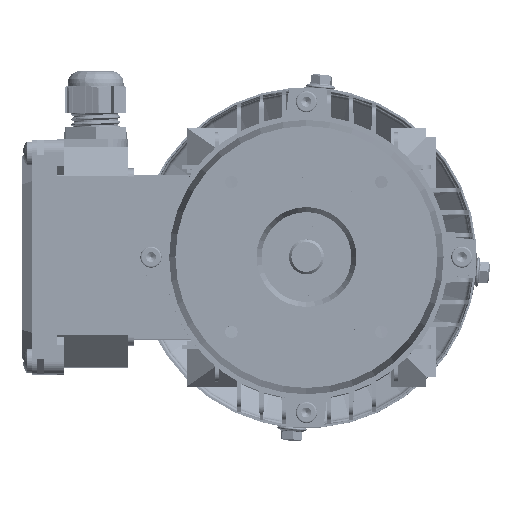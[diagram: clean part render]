
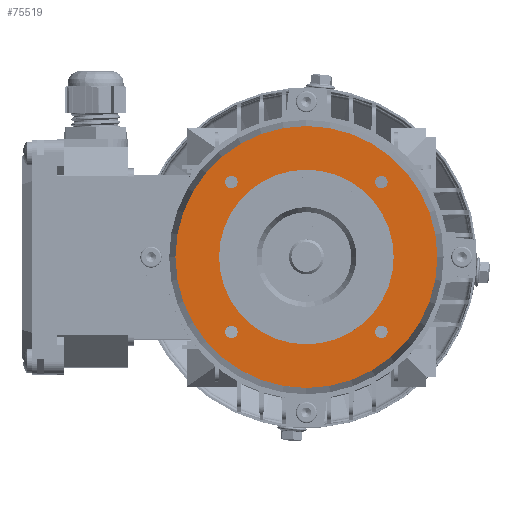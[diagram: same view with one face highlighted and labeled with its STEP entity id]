
A CAD part, top view. The second image highlights one B-rep face of the part: STEP entity #75519.
In plain terms, the highlighted planar face has unit normal (0, 0, 1).
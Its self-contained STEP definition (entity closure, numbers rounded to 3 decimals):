
#498 = DIRECTION ( 'NONE',  ( 1., 0., 0. ) ) ;
#1558 = AXIS2_PLACEMENT_3D ( 'NONE', #82681, #25088, #92300 ) ;
#1923 = FACE_BOUND ( 'NONE', #117175, .T. ) ;
#1939 = DIRECTION ( 'NONE',  ( 0., 0., 1. ) ) ;
#2234 = DIRECTION ( 'NONE',  ( 1., 0., 0. ) ) ;
#3148 = AXIS2_PLACEMENT_3D ( 'NONE', #73374, #112053, #54427 ) ;
#5136 = CIRCLE ( 'NONE', #54897, 2.5 ) ;
#5251 = DIRECTION ( 'NONE',  ( 1., 0., 0. ) ) ;
#5850 = CIRCLE ( 'NONE', #108155, 2.5 ) ;
#5865 = ORIENTED_EDGE ( 'NONE', *, *, #59221, .F. ) ;
#5932 = VERTEX_POINT ( 'NONE', #43741 ) ;
#6736 = CARTESIAN_POINT ( 'NONE',  ( 0., 0., -2.5 ) ) ;
#8630 = VERTEX_POINT ( 'NONE', #84689 ) ;
#11121 = VERTEX_POINT ( 'NONE', #43643 ) ;
#13105 = ORIENTED_EDGE ( 'NONE', *, *, #117894, .T. ) ;
#13570 = DIRECTION ( 'NONE',  ( 0., 0., 1. ) ) ;
#13617 = CARTESIAN_POINT ( 'NONE',  ( 30.052, -30.052, -2.5 ) ) ;
#15265 = EDGE_LOOP ( 'NONE', ( #107726, #79883 ) ) ;
#16246 = VERTEX_POINT ( 'NONE', #48657 ) ;
#16426 = DIRECTION ( 'NONE',  ( 1., 0., 0. ) ) ;
#17017 = AXIS2_PLACEMENT_3D ( 'NONE', #115782, #58180, #498 ) ;
#18688 = EDGE_LOOP ( 'NONE', ( #48467, #47633 ) ) ;
#19546 = CIRCLE ( 'NONE', #51246, 35. ) ;
#20091 = VERTEX_POINT ( 'NONE', #57908 ) ;
#20620 = VERTEX_POINT ( 'NONE', #94325 ) ;
#22579 = DIRECTION ( 'NONE',  ( 0., 0., 1. ) ) ;
#23346 = DIRECTION ( 'NONE',  ( 1., 0., 0. ) ) ;
#23847 = ORIENTED_EDGE ( 'NONE', *, *, #32695, .F. ) ;
#24585 = VERTEX_POINT ( 'NONE', #40350 ) ;
#25088 = DIRECTION ( 'NONE',  ( 0., 0., 1. ) ) ;
#25268 = EDGE_CURVE ( 'NONE', #28661, #8630, #116631, .T. ) ;
#25648 = ORIENTED_EDGE ( 'NONE', *, *, #87387, .F. ) ;
#27582 = FACE_OUTER_BOUND ( 'NONE', #94248, .T. ) ;
#28661 = VERTEX_POINT ( 'NONE', #67306 ) ;
#28721 = EDGE_LOOP ( 'NONE', ( #23847, #5865 ) ) ;
#32695 = EDGE_CURVE ( 'NONE', #120403, #5932, #70228, .T. ) ;
#39568 = FACE_BOUND ( 'NONE', #28721, .T. ) ;
#40350 = CARTESIAN_POINT ( 'NONE',  ( -35., 0., -2.5 ) ) ;
#42169 = CARTESIAN_POINT ( 'NONE',  ( -52.5, 0., -2.5 ) ) ;
#43643 = CARTESIAN_POINT ( 'NONE',  ( 27.552, 30.052, -2.5 ) ) ;
#43741 = CARTESIAN_POINT ( 'NONE',  ( -32.552, 30.052, -2.5 ) ) ;
#44747 = PLANE ( 'NONE',  #3148 ) ;
#47633 = ORIENTED_EDGE ( 'NONE', *, *, #52554, .F. ) ;
#48467 = ORIENTED_EDGE ( 'NONE', *, *, #112991, .F. ) ;
#48657 = CARTESIAN_POINT ( 'NONE',  ( -32.552, -30.052, -2.5 ) ) ;
#50487 = CIRCLE ( 'NONE', #17017, 35. ) ;
#51121 = DIRECTION ( 'NONE',  ( 0., 0., 1. ) ) ;
#51246 = AXIS2_PLACEMENT_3D ( 'NONE', #120479, #62902, #5251 ) ;
#52554 = EDGE_CURVE ( 'NONE', #11121, #20620, #108874, .T. ) ;
#53149 = FACE_BOUND ( 'NONE', #18688, .T. ) ;
#54415 = AXIS2_PLACEMENT_3D ( 'NONE', #115156, #57574, #124831 ) ;
#54427 = DIRECTION ( 'NONE',  ( 1., 0., 0. ) ) ;
#54568 = ORIENTED_EDGE ( 'NONE', *, *, #83014, .F. ) ;
#54897 = AXIS2_PLACEMENT_3D ( 'NONE', #59620, #1939, #69267 ) ;
#55791 = DIRECTION ( 'NONE',  ( 0., 0., 1. ) ) ;
#57099 = AXIS2_PLACEMENT_3D ( 'NONE', #71213, #13570, #80877 ) ;
#57574 = DIRECTION ( 'NONE',  ( 0., 0., 1. ) ) ;
#57908 = CARTESIAN_POINT ( 'NONE',  ( 52.5, 0., -2.5 ) ) ;
#58180 = DIRECTION ( 'NONE',  ( 0., 0., 1. ) ) ;
#58348 = AXIS2_PLACEMENT_3D ( 'NONE', #113382, #55791, #123051 ) ;
#59221 = EDGE_CURVE ( 'NONE', #5932, #120403, #5136, .T. ) ;
#59620 = CARTESIAN_POINT ( 'NONE',  ( -30.052, 30.052, -2.5 ) ) ;
#59913 = DIRECTION ( 'NONE',  ( 0., 0., 1. ) ) ;
#60852 = EDGE_CURVE ( 'NONE', #117293, #20091, #122199, .T. ) ;
#61940 = CIRCLE ( 'NONE', #89114, 2.5 ) ;
#62902 = DIRECTION ( 'NONE',  ( 0., 0., 1. ) ) ;
#67306 = CARTESIAN_POINT ( 'NONE',  ( 27.552, -30.052, -2.5 ) ) ;
#69267 = DIRECTION ( 'NONE',  ( 1., 0., 0. ) ) ;
#70228 = CIRCLE ( 'NONE', #80294, 2.5 ) ;
#71213 = CARTESIAN_POINT ( 'NONE',  ( 30.052, 30.052, -2.5 ) ) ;
#73374 = CARTESIAN_POINT ( 'NONE',  ( 35., 0., -2.5 ) ) ;
#74069 = DIRECTION ( 'NONE',  ( 0., 0., 1. ) ) ;
#75519 = ADVANCED_FACE ( 'NONE', ( #78726, #104297, #39568, #53149, #27582, #1923 ), #44747, .T. ) ;
#75580 = VERTEX_POINT ( 'NONE', #84290 ) ;
#75595 = CIRCLE ( 'NONE', #57099, 2.5 ) ;
#77071 = CARTESIAN_POINT ( 'NONE',  ( -27.552, 30.052, -2.5 ) ) ;
#77402 = ORIENTED_EDGE ( 'NONE', *, *, #60852, .T. ) ;
#78726 = FACE_BOUND ( 'NONE', #122183, .T. ) ;
#78857 = EDGE_CURVE ( 'NONE', #75580, #16246, #5850, .T. ) ;
#79883 = ORIENTED_EDGE ( 'NONE', *, *, #104419, .F. ) ;
#80171 = CARTESIAN_POINT ( 'NONE',  ( -30.052, -30.052, -2.5 ) ) ;
#80294 = AXIS2_PLACEMENT_3D ( 'NONE', #108728, #51121, #118415 ) ;
#80601 = CIRCLE ( 'NONE', #98527, 52.5 ) ;
#80877 = DIRECTION ( 'NONE',  ( 1., 0., 0. ) ) ;
#80923 = DIRECTION ( 'NONE',  ( 0., 0., 1. ) ) ;
#82681 = CARTESIAN_POINT ( 'NONE',  ( -30.052, -30.052, -2.5 ) ) ;
#83014 = EDGE_CURVE ( 'NONE', #24585, #120499, #19546, .T. ) ;
#84290 = CARTESIAN_POINT ( 'NONE',  ( -27.552, -30.052, -2.5 ) ) ;
#84689 = CARTESIAN_POINT ( 'NONE',  ( 32.552, -30.052, -2.5 ) ) ;
#87387 = EDGE_CURVE ( 'NONE', #120499, #24585, #50487, .T. ) ;
#89114 = AXIS2_PLACEMENT_3D ( 'NONE', #13617, #80923, #23346 ) ;
#89808 = DIRECTION ( 'NONE',  ( 1., 0., 0. ) ) ;
#92300 = DIRECTION ( 'NONE',  ( 1., 0., 0. ) ) ;
#94248 = EDGE_LOOP ( 'NONE', ( #13105, #77402 ) ) ;
#94325 = CARTESIAN_POINT ( 'NONE',  ( 32.552, 30.052, -2.5 ) ) ;
#98527 = AXIS2_PLACEMENT_3D ( 'NONE', #6736, #74069, #16426 ) ;
#104297 = FACE_BOUND ( 'NONE', #15265, .T. ) ;
#104419 = EDGE_CURVE ( 'NONE', #16246, #75580, #118569, .T. ) ;
#107289 = CARTESIAN_POINT ( 'NONE',  ( 35., 0., -2.5 ) ) ;
#107726 = ORIENTED_EDGE ( 'NONE', *, *, #78857, .F. ) ;
#108155 = AXIS2_PLACEMENT_3D ( 'NONE', #80171, #22579, #89808 ) ;
#108728 = CARTESIAN_POINT ( 'NONE',  ( -30.052, 30.052, -2.5 ) ) ;
#108874 = CIRCLE ( 'NONE', #58348, 2.5 ) ;
#112053 = DIRECTION ( 'NONE',  ( 0., 0., 1. ) ) ;
#112186 = ORIENTED_EDGE ( 'NONE', *, *, #25268, .F. ) ;
#112991 = EDGE_CURVE ( 'NONE', #20620, #11121, #75595, .T. ) ;
#113382 = CARTESIAN_POINT ( 'NONE',  ( 30.052, 30.052, -2.5 ) ) ;
#115156 = CARTESIAN_POINT ( 'NONE',  ( 0., 0., -2.5 ) ) ;
#115782 = CARTESIAN_POINT ( 'NONE',  ( 0., 0., -2.5 ) ) ;
#116631 = CIRCLE ( 'NONE', #123016, 2.5 ) ;
#117175 = EDGE_LOOP ( 'NONE', ( #25648, #54568 ) ) ;
#117293 = VERTEX_POINT ( 'NONE', #42169 ) ;
#117509 = CARTESIAN_POINT ( 'NONE',  ( 30.052, -30.052, -2.5 ) ) ;
#117894 = EDGE_CURVE ( 'NONE', #20091, #117293, #80601, .T. ) ;
#118415 = DIRECTION ( 'NONE',  ( 1., 0., 0. ) ) ;
#118569 = CIRCLE ( 'NONE', #1558, 2.5 ) ;
#120403 = VERTEX_POINT ( 'NONE', #77071 ) ;
#120479 = CARTESIAN_POINT ( 'NONE',  ( 0., 0., -2.5 ) ) ;
#120499 = VERTEX_POINT ( 'NONE', #107289 ) ;
#121765 = EDGE_CURVE ( 'NONE', #8630, #28661, #61940, .T. ) ;
#122183 = EDGE_LOOP ( 'NONE', ( #122843, #112186 ) ) ;
#122199 = CIRCLE ( 'NONE', #54415, 52.5 ) ;
#122843 = ORIENTED_EDGE ( 'NONE', *, *, #121765, .F. ) ;
#123016 = AXIS2_PLACEMENT_3D ( 'NONE', #117509, #59913, #2234 ) ;
#123051 = DIRECTION ( 'NONE',  ( 1., 0., 0. ) ) ;
#124831 = DIRECTION ( 'NONE',  ( 1., 0., 0. ) ) ;
